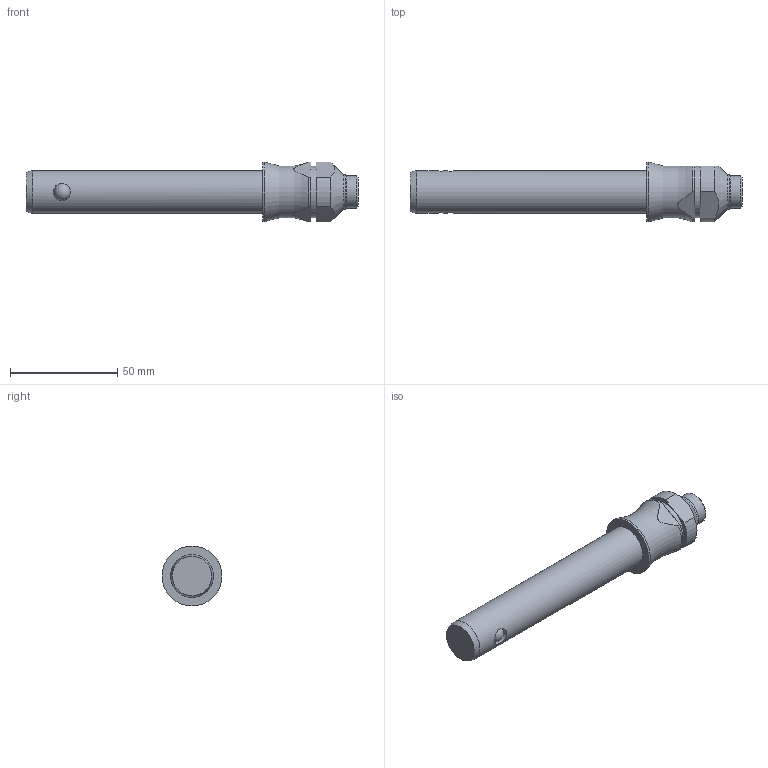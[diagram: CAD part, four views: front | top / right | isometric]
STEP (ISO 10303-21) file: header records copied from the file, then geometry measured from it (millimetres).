
FILE_DESCRIPTION( ( 'STEP AP203' ), '1' );
FILE_NAME( 'C:/Temp/Ganter_Step_05_03_2020/data/3_1/gn113_3/Stainless Steel-Ball lock pin GN 113.3-20-90 (activated).stp', '2020-03-12T08:19:04', ( 'License CC BY-ND 4.0' ), ( 'CADENAS' ), ' ', 'PARTsolutions', ' ' );
FILE_SCHEMA( ( 'CONFIG_CONTROL_DESIGN' ) );
Length unit declared in the file: millimetre
Products named in the file (1): _Stainless Steel-Ball lock pin GN 113.3-20-90 (activated)
Bounding box: 155.05 x 28 x 28 mm (x, y, z)
Volume: 54280.1 mm3; surface area: 11673.1 mm2
Topology: 1 solids, 1 shells, 31 faces, 74 edges, 46 vertices
Faces by surface type: cylinder 13, plane 11, cone 4, sphere 2, torus 1
Full cylindrical faces by diameter (mm): 8 x2, 15 x1, 16 x1, 20 x1, 24 x1, 28 x1
Entity records: 1054 total; most frequent: CARTESIAN_POINT 390, DIRECTION 134, ORIENTED_EDGE 104, AXIS2_PLACEMENT_3D 58, EDGE_CURVE 52, EDGE_LOOP 48, VERTEX_POINT 40, FACE_OUTER_BOUND 39
